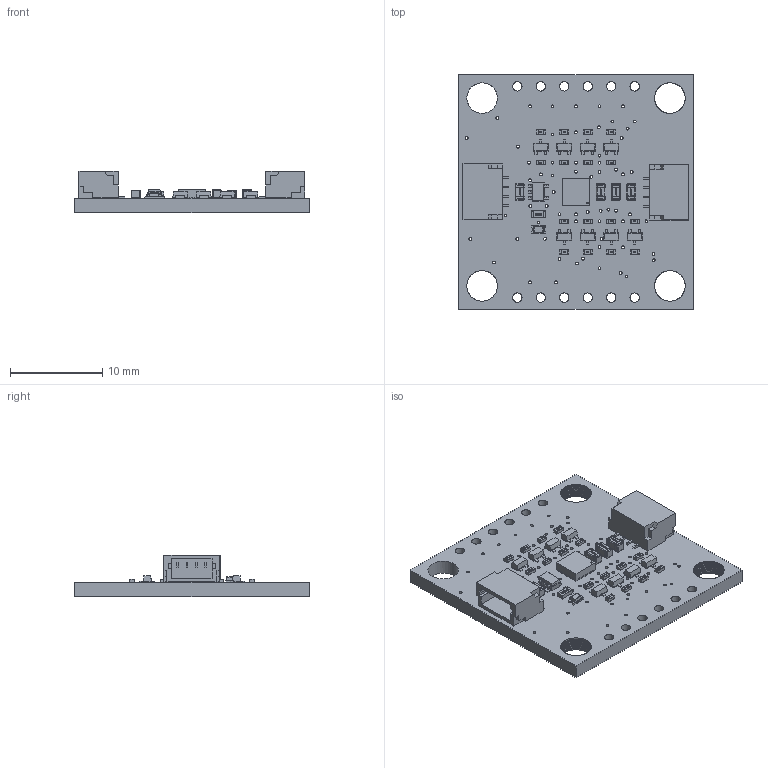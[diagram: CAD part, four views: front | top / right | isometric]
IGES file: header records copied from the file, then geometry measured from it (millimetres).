
Global section: file name: SparkFun_IMU_Breakout_ICM-20948 v7; native system: unknown; preprocessor: unknown; author: unknown; organization: unknown; date: 20210303.101651; units: millimetre
Bounding box: 25.4 x 25.4 x 4.53 mm (x, y, z)
Volume: 1052.7 mm3; surface area: 2152.1 mm2
Topology: 133 solids, 133 shells, 3828 faces, 9991 edges, 6473 vertices
Faces by surface type: bspline 3826, revolution 2
